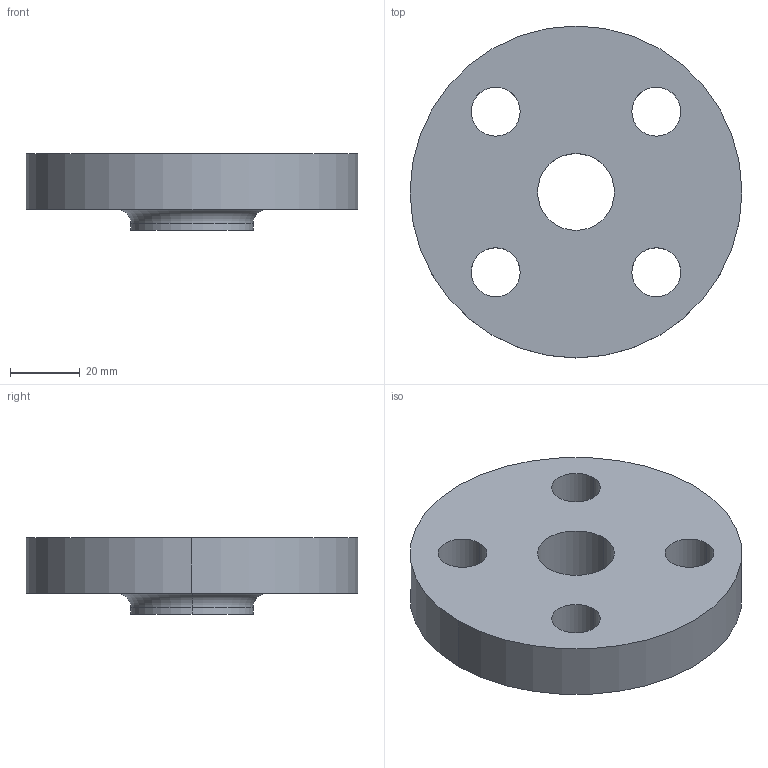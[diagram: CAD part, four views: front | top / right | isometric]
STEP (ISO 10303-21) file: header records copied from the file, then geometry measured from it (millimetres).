
FILE_DESCRIPTION (( 'STEP AP214' ), '1' );
FILE_NAME ('PN40 DN15 Type 12 - Type A Face.STEP', '2018-12-29T15:00:33', ( '' ), ( '' ), 'SwSTEP 2.0', 'SolidWorks 2019', '' );
FILE_SCHEMA (( 'AUTOMOTIVE_DESIGN' ));
Length unit declared in the file: millimetre
Products named in the file (1): PN40 DN15 Type 12 - Type A Face
Bounding box: 95 x 95 x 22 mm (x, y, z)
Volume: 101366 mm3; surface area: 21773.4 mm2
Topology: 1 solids, 1 shells, 19 faces, 46 edges, 30 vertices
Faces by surface type: cylinder 14, plane 3, torus 2
Entity records: 630 total; most frequent: DIRECTION 118, CARTESIAN_POINT 96, ORIENTED_EDGE 92, AXIS2_PLACEMENT_3D 52, EDGE_CURVE 46, CIRCLE 32, EDGE_LOOP 30, VERTEX_POINT 30
